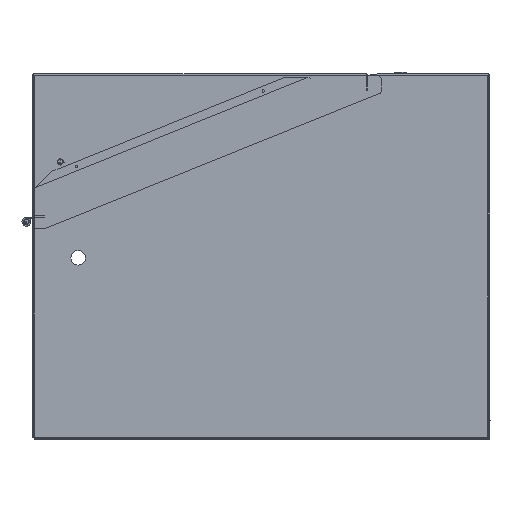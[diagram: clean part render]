
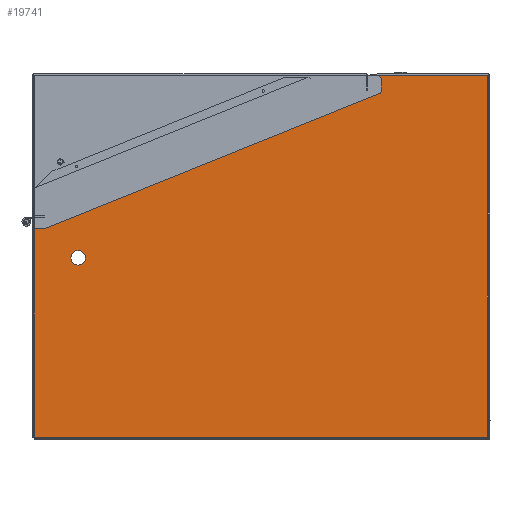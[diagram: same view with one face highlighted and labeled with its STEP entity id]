
A CAD part, left-side view. The second image highlights one B-rep face of the part: STEP entity #19741.
In plain terms, the highlighted planar face has unit normal (-1, 0, 0).
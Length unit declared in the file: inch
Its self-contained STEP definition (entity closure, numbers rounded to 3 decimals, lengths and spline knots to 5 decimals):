
#11676 = CARTESIAN_POINT ( 'NONE',  ( -24., 13.9655, 14.356 ) ) ;
#11677 = LINE ( 'NONE', #11676, #11738 ) ;
#11678 = CARTESIAN_POINT ( 'NONE',  ( -24., 13.9655, 14.356 ) ) ;
#11679 = DIRECTION ( 'NONE',  ( 0., 0., 1. ) ) ;
#11680 = VECTOR ( 'NONE', #11679, 39.37008 ) ;
#11681 = CARTESIAN_POINT ( 'NONE',  ( -24., 13.9655, 16.19371 ) ) ;
#11682 = LINE ( 'NONE', #11681, #11680 ) ;
#11683 = CARTESIAN_POINT ( 'NONE',  ( -24., 13.9655, 16.19371 ) ) ;
#11684 = DIRECTION ( 'NONE',  ( 0., -0.927, 0.375 ) ) ;
#11685 = VECTOR ( 'NONE', #11684, 39.37008 ) ;
#11686 = CARTESIAN_POINT ( 'NONE',  ( -24., -5.0315, 23.869 ) ) ;
#11687 = LINE ( 'NONE', #11686, #11685 ) ;
#11688 = CARTESIAN_POINT ( 'NONE',  ( -24., -4.99437, 23.854 ) ) ;
#11689 = DIRECTION ( 'NONE',  ( 0., 1., 0. ) ) ;
#11690 = VECTOR ( 'NONE', #11689, 39.37008 ) ;
#11691 = CARTESIAN_POINT ( 'NONE',  ( -24., -14.9345, 23.854 ) ) ;
#11692 = LINE ( 'NONE', #11691, #11690 ) ;
#11693 = CARTESIAN_POINT ( 'NONE',  ( -24., -6.2465, 23.854 ) ) ;
#11694 = DIRECTION ( 'NONE',  ( 0., 0., 1. ) ) ;
#11695 = VECTOR ( 'NONE', #11694, 39.37008 ) ;
#11696 = CARTESIAN_POINT ( 'NONE',  ( -24., -6.2465, 23.869 ) ) ;
#11697 = LINE ( 'NONE', #11696, #11695 ) ;
#11736 = CARTESIAN_POINT ( 'NONE',  ( -24., 14.9345, 14.356 ) ) ;
#11737 = DIRECTION ( 'NONE',  ( 0., -1., 0. ) ) ;
#11738 = VECTOR ( 'NONE', #11737, 39.37008 ) ;
#11971 = DIRECTION ( 'NONE',  ( 0., 0., -1. ) ) ;
#11972 = DIRECTION ( 'NONE',  ( 1., 0., 0. ) ) ;
#11973 = CARTESIAN_POINT ( 'NONE',  ( -24., 12.0435, 11.9345 ) ) ;
#11974 = AXIS2_PLACEMENT_3D ( 'NONE', #11973, #11972, #11971 ) ;
#11975 = CIRCLE ( 'NONE', #11974, 0.4765 ) ;
#11976 = DIRECTION ( 'NONE',  ( 0., 0., 1. ) ) ;
#11977 = DIRECTION ( 'NONE',  ( 1., 0., 0. ) ) ;
#11978 = CARTESIAN_POINT ( 'NONE',  ( -24., -14.9345, 23.869 ) ) ;
#11979 = AXIS2_PLACEMENT_3D ( 'NONE', #11978, #11977, #11976 ) ;
#11980 = PLANE ( 'NONE',  #11979 ) ;
#11981 = FACE_OUTER_BOUND ( 'NONE', #19746, .T. ) ;
#11982 = FACE_BOUND ( 'NONE', #19742, .T. ) ;
#12159 = CARTESIAN_POINT ( 'NONE',  ( -24., -6.2465, 22.774 ) ) ;
#12160 = DIRECTION ( 'NONE',  ( 0., 1., 0. ) ) ;
#12161 = VECTOR ( 'NONE', #12160, 39.37008 ) ;
#12162 = CARTESIAN_POINT ( 'NONE',  ( -24., -14.9345, 22.774 ) ) ;
#12163 = LINE ( 'NONE', #12162, #12161 ) ;
#12164 = CARTESIAN_POINT ( 'NONE',  ( -24., -7.5595, 22.774 ) ) ;
#12165 = CARTESIAN_POINT ( 'NONE',  ( -24., -7.5595, 23.869 ) ) ;
#12166 = DIRECTION ( 'NONE',  ( 0., 0., -1. ) ) ;
#12167 = VECTOR ( 'NONE', #12166, 39.37008 ) ;
#12168 = CARTESIAN_POINT ( 'NONE',  ( -24., -7.5595, 23.869 ) ) ;
#12169 = LINE ( 'NONE', #12168, #12167 ) ;
#12379 = CARTESIAN_POINT ( 'NONE',  ( -24., 12.0435, 12.411 ) ) ;
#12380 = DIRECTION ( 'NONE',  ( 0., 0., -1. ) ) ;
#12381 = DIRECTION ( 'NONE',  ( 1., 0., 0. ) ) ;
#12382 = CARTESIAN_POINT ( 'NONE',  ( -24., 12.0435, 11.9345 ) ) ;
#12383 = AXIS2_PLACEMENT_3D ( 'NONE', #12382, #12381, #12380 ) ;
#12384 = CIRCLE ( 'NONE', #12383, 0.4765 ) ;
#12385 = CARTESIAN_POINT ( 'NONE',  ( -24., 12.0435, 11.458 ) ) ;
#12674 = VECTOR ( 'NONE', #12717, 39.37008 ) ;
#12675 = CARTESIAN_POINT ( 'NONE',  ( -24., 14.9345, 0.177 ) ) ;
#12676 = LINE ( 'NONE', #12675, #12674 ) ;
#12677 = CARTESIAN_POINT ( 'NONE',  ( -24., 14.9345, 0.177 ) ) ;
#12678 = DIRECTION ( 'NONE',  ( 0., 0., 1. ) ) ;
#12679 = VECTOR ( 'NONE', #12678, 39.37008 ) ;
#12680 = CARTESIAN_POINT ( 'NONE',  ( -24., 14.9345, 14.356 ) ) ;
#12681 = LINE ( 'NONE', #12680, #12679 ) ;
#12707 = DIRECTION ( 'NONE',  ( 0., -1., 0. ) ) ;
#12708 = VECTOR ( 'NONE', #12707, 39.37008 ) ;
#12709 = CARTESIAN_POINT ( 'NONE',  ( -24., -14.9345, 23.869 ) ) ;
#12710 = LINE ( 'NONE', #12709, #12708 ) ;
#12711 = CARTESIAN_POINT ( 'NONE',  ( -24., -14.7575, 23.869 ) ) ;
#12712 = DIRECTION ( 'NONE',  ( 0., 0., -1. ) ) ;
#12713 = VECTOR ( 'NONE', #12712, 39.37008 ) ;
#12714 = CARTESIAN_POINT ( 'NONE',  ( -24., -14.7575, 262.099 ) ) ;
#12715 = LINE ( 'NONE', #12714, #12713 ) ;
#12716 = CARTESIAN_POINT ( 'NONE',  ( -24., -14.7575, 0.177 ) ) ;
#12717 = DIRECTION ( 'NONE',  ( 0., 1., 0. ) ) ;
#19612 = EDGE_CURVE ( 'NONE', #19753, #19613, #11697, .T. ) ;
#19613 = VERTEX_POINT ( 'NONE', #11693 ) ;
#19614 = ORIENTED_EDGE ( 'NONE', *, *, #19615, .T. ) ;
#19615 = EDGE_CURVE ( 'NONE', #19613, #19616, #11692, .T. ) ;
#19616 = VERTEX_POINT ( 'NONE', #11688 ) ;
#19617 = ORIENTED_EDGE ( 'NONE', *, *, #19618, .F. ) ;
#19618 = EDGE_CURVE ( 'NONE', #19619, #19616, #11687, .T. ) ;
#19619 = VERTEX_POINT ( 'NONE', #11683 ) ;
#19620 = ORIENTED_EDGE ( 'NONE', *, *, #19621, .F. ) ;
#19621 = EDGE_CURVE ( 'Edge26', #19622, #19619, #11682, .T. ) ;
#19622 = VERTEX_POINT ( 'NONE', #11678 ) ;
#19623 = ORIENTED_EDGE ( 'NONE', *, *, #19624, .F. ) ;
#19624 = EDGE_CURVE ( 'Edge6', #19625, #19622, #11677, .T. ) ;
#19625 = VERTEX_POINT ( 'NONE', #11736 ) ;
#19626 = ORIENTED_EDGE ( 'NONE', *, *, #20174, .F. ) ;
#19741 = ADVANCED_FACE ( 'Face2', ( #11982, #11981 ), #11980, .F. ) ;
#19742 = EDGE_LOOP ( 'NONE', ( #19743, #19744 ) ) ;
#19743 = ORIENTED_EDGE ( 'NONE', *, *, #19797, .T. ) ;
#19744 = ORIENTED_EDGE ( 'NONE', *, *, #19745, .T. ) ;
#19745 = EDGE_CURVE ( 'Edge23', #19795, #19798, #11975, .T. ) ;
#19746 = EDGE_LOOP ( 'NONE', ( #19747, #19751, #19754, #19614, #19617, #19620, #19623, #19626, #20176, #20179, #20182 ) ) ;
#19747 = ORIENTED_EDGE ( 'NONE', *, *, #19748, .T. ) ;
#19748 = EDGE_CURVE ( 'NONE', #19749, #19750, #12169, .T. ) ;
#19749 = VERTEX_POINT ( 'NONE', #12165 ) ;
#19750 = VERTEX_POINT ( 'NONE', #12164 ) ;
#19751 = ORIENTED_EDGE ( 'NONE', *, *, #19752, .T. ) ;
#19752 = EDGE_CURVE ( 'NONE', #19750, #19753, #12163, .T. ) ;
#19753 = VERTEX_POINT ( 'NONE', #12159 ) ;
#19754 = ORIENTED_EDGE ( 'NONE', *, *, #19612, .T. ) ;
#19795 = VERTEX_POINT ( 'NONE', #12385 ) ;
#19797 = EDGE_CURVE ( 'Edge23', #19798, #19795, #12384, .T. ) ;
#19798 = VERTEX_POINT ( 'NONE', #12379 ) ;
#20174 = EDGE_CURVE ( 'Edge65', #20175, #19625, #12681, .T. ) ;
#20175 = VERTEX_POINT ( 'NONE', #12677 ) ;
#20176 = ORIENTED_EDGE ( 'NONE', *, *, #20177, .F. ) ;
#20177 = EDGE_CURVE ( 'Edge15', #20178, #20175, #12676, .T. ) ;
#20178 = VERTEX_POINT ( 'NONE', #12716 ) ;
#20179 = ORIENTED_EDGE ( 'NONE', *, *, #20180, .F. ) ;
#20180 = EDGE_CURVE ( 'Edge56', #20181, #20178, #12715, .T. ) ;
#20181 = VERTEX_POINT ( 'NONE', #12711 ) ;
#20182 = ORIENTED_EDGE ( 'NONE', *, *, #20183, .F. ) ;
#20183 = EDGE_CURVE ( 'NONE', #19749, #20181, #12710, .T. ) ;
